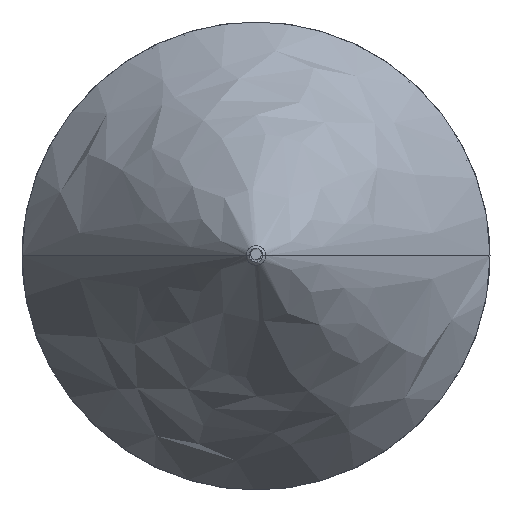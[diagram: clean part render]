
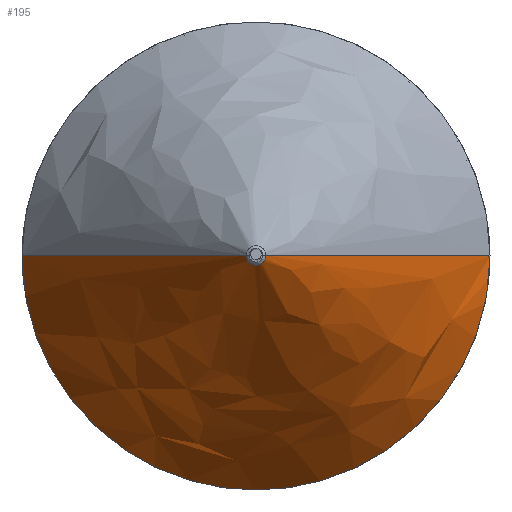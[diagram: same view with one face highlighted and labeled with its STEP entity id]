
A CAD part, top view. The second image highlights one B-rep face of the part: STEP entity #195.
In plain terms, the highlighted free-form (B-spline) face has degree [2, 1] with [5, 2] control points.
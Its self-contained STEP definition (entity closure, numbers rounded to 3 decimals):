
#195=ADVANCED_FACE('',(#223),#904,.T.);
#223=FACE_OUTER_BOUND('',#252,.T.);
#252=EDGE_LOOP('',(#340,#341,#342,#343));
#340=ORIENTED_EDGE('',*,*,#770,.T.);
#341=ORIENTED_EDGE('',*,*,#768,.F.);
#342=ORIENTED_EDGE('',*,*,#771,.T.);
#343=ORIENTED_EDGE('',*,*,#766,.F.);
#436=B_SPLINE_CURVE_WITH_KNOTS('',1,(#1736,#1737),.UNSPECIFIED.,.F.,.F.,
(2,2),(8.523,296.967),.UNSPECIFIED.);
#437=B_SPLINE_CURVE_WITH_KNOTS('',1,(#1738,#1739),.UNSPECIFIED.,.F.,.F.,
(2,2),(8.523,296.967),.UNSPECIFIED.);
#439=B_SPLINE_CURVE_WITH_KNOTS('',1,(#1747,#1748),.UNSPECIFIED.,.F.,.F.,
(2,2),(-296.967,-8.523),.UNSPECIFIED.);
#440=B_SPLINE_CURVE_WITH_KNOTS('',1,(#1749,#1750),.UNSPECIFIED.,.F.,.F.,
(2,2),(-296.967,-8.523),.UNSPECIFIED.);
#442=B_SPLINE_CURVE_WITH_KNOTS('',1,(#1763,#1764),.UNSPECIFIED.,.F.,.F.,
(2,2),(524.66,1049.319),.UNSPECIFIED.);
#443=B_SPLINE_CURVE_WITH_KNOTS('',1,(#1765,#1766),.UNSPECIFIED.,.F.,.F.,
(2,2),(-296.967,-8.523),.UNSPECIFIED.);
#444=B_SPLINE_CURVE_WITH_KNOTS('',1,(#1772,#1773),.UNSPECIFIED.,.F.,.F.,
(2,2),(-1049.319,-524.66),.UNSPECIFIED.);
#445=B_SPLINE_CURVE_WITH_KNOTS('',1,(#1774,#1775),.UNSPECIFIED.,.F.,.F.,
(2,2),(8.523,296.967),.UNSPECIFIED.);
#533=PCURVE('',#903,#628);
#535=PCURVE('',#903,#630);
#537=PCURVE('',#904,#632);
#538=PCURVE('',#904,#633);
#539=PCURVE('',#904,#634);
#540=PCURVE('',#904,#635);
#628=DEFINITIONAL_REPRESENTATION('',(#437),#1839);
#630=DEFINITIONAL_REPRESENTATION('',(#440),#1839);
#632=DEFINITIONAL_REPRESENTATION('',(#442),#1839);
#633=DEFINITIONAL_REPRESENTATION('',(#443),#1839);
#634=DEFINITIONAL_REPRESENTATION('',(#444),#1839);
#635=DEFINITIONAL_REPRESENTATION('',(#445),#1839);
#699=SURFACE_CURVE('',#436,(#533,#540),.PCURVE_S1.);
#701=SURFACE_CURVE('',#439,(#535,#538),.PCURVE_S1.);
#703=SURFACE_CURVE('',#830,(#537),.PCURVE_S1.);
#704=SURFACE_CURVE('',#831,(#539),.PCURVE_S1.);
#766=EDGE_CURVE('',#878,#879,#699,.T.);
#768=EDGE_CURVE('',#876,#877,#701,.T.);
#770=EDGE_CURVE('',#878,#877,#703,.T.);
#771=EDGE_CURVE('',#876,#879,#704,.T.);
#830=(
BOUNDED_CURVE()
B_SPLINE_CURVE(2,(#1758,#1759,#1760,#1761,#1762),.UNSPECIFIED.,.F.,.F.)
B_SPLINE_CURVE_WITH_KNOTS((3,2,3),(524.66,786.989,1049.319),
 .UNSPECIFIED.)
CURVE()
GEOMETRIC_REPRESENTATION_ITEM()
RATIONAL_B_SPLINE_CURVE((1.,0.707,1.,0.707,1.))
REPRESENTATION_ITEM('')
);
#831=(
BOUNDED_CURVE()
B_SPLINE_CURVE(2,(#1767,#1768,#1769,#1770,#1771),.UNSPECIFIED.,.F.,.F.)
B_SPLINE_CURVE_WITH_KNOTS((3,2,3),(-1049.319,-786.989,
-524.66),.UNSPECIFIED.)
CURVE()
GEOMETRIC_REPRESENTATION_ITEM()
RATIONAL_B_SPLINE_CURVE((1.,0.707,1.,0.707,1.))
REPRESENTATION_ITEM('')
);
#876=VERTEX_POINT('',#1732);
#877=VERTEX_POINT('',#1733);
#878=VERTEX_POINT('',#1734);
#879=VERTEX_POINT('',#1735);
#903=(
BOUNDED_SURFACE()
B_SPLINE_SURFACE(2,1,((#1712,#1713),(#1714,#1715),(#1716,#1717),(#1718,
#1719),(#1720,#1721)),.UNSPECIFIED.,.F.,.F.,.F.)
B_SPLINE_SURFACE_WITH_KNOTS((3,2,3),(2,2),(0.,262.33,524.66),
(8.523,296.967),.UNSPECIFIED.)
GEOMETRIC_REPRESENTATION_ITEM()
RATIONAL_B_SPLINE_SURFACE(((1.,1.),(0.707,0.707),
(1.,1.),(0.707,0.707),(1.,1.)))
REPRESENTATION_ITEM('')
SURFACE()
);
#904=(
BOUNDED_SURFACE()
B_SPLINE_SURFACE(2,1,((#1722,#1723),(#1724,#1725),(#1726,#1727),(#1728,
#1729),(#1730,#1731)),.UNSPECIFIED.,.F.,.F.,.F.)
B_SPLINE_SURFACE_WITH_KNOTS((3,2,3),(2,2),(524.66,786.989,
1049.319),(8.523,296.967),.UNSPECIFIED.)
GEOMETRIC_REPRESENTATION_ITEM()
RATIONAL_B_SPLINE_SURFACE(((1.,1.),(0.707,0.707),
(1.,1.),(0.707,0.707),(1.,1.)))
REPRESENTATION_ITEM('')
SURFACE()
);
#1712=CARTESIAN_POINT('',(-6.986,-0.175,241.526));
#1713=CARTESIAN_POINT('',(-166.986,-0.175,1.526));
#1714=CARTESIAN_POINT('',(-6.986,6.829,241.526));
#1715=CARTESIAN_POINT('',(-166.986,166.829,1.526));
#1716=CARTESIAN_POINT('',(0.019,6.829,241.526));
#1717=CARTESIAN_POINT('',(0.019,166.829,1.526));
#1718=CARTESIAN_POINT('',(7.023,6.829,241.526));
#1719=CARTESIAN_POINT('',(167.023,166.829,1.526));
#1720=CARTESIAN_POINT('',(7.023,-0.175,241.526));
#1721=CARTESIAN_POINT('',(167.023,-0.175,1.526));
#1722=CARTESIAN_POINT('',(7.023,-0.175,241.526));
#1723=CARTESIAN_POINT('',(167.023,-0.175,1.526));
#1724=CARTESIAN_POINT('',(7.023,-7.18,241.526));
#1725=CARTESIAN_POINT('',(167.023,-167.18,1.526));
#1726=CARTESIAN_POINT('',(0.019,-7.18,241.526));
#1727=CARTESIAN_POINT('',(0.019,-167.18,1.526));
#1728=CARTESIAN_POINT('',(-6.986,-7.18,241.526));
#1729=CARTESIAN_POINT('',(-166.986,-167.18,1.526));
#1730=CARTESIAN_POINT('',(-6.986,-0.175,241.526));
#1731=CARTESIAN_POINT('',(-166.986,-0.175,1.526));
#1732=CARTESIAN_POINT('',(-166.986,-0.175,1.526));
#1733=CARTESIAN_POINT('',(-6.986,-0.175,241.526));
#1734=CARTESIAN_POINT('',(7.023,-0.175,241.526));
#1735=CARTESIAN_POINT('',(167.023,-0.175,1.526));
#1736=CARTESIAN_POINT('',(7.023,-0.175,241.526));
#1737=CARTESIAN_POINT('',(167.023,-0.175,1.526));
#1738=CARTESIAN_POINT('',(524.66,8.523));
#1739=CARTESIAN_POINT('',(524.66,296.967));
#1747=CARTESIAN_POINT('',(-166.986,-0.175,1.526));
#1748=CARTESIAN_POINT('',(-6.986,-0.175,241.526));
#1749=CARTESIAN_POINT('',(0.,296.967));
#1750=CARTESIAN_POINT('',(0.,8.523));
#1758=CARTESIAN_POINT('',(7.023,-0.175,241.526));
#1759=CARTESIAN_POINT('',(7.023,-7.18,241.526));
#1760=CARTESIAN_POINT('',(0.019,-7.18,241.526));
#1761=CARTESIAN_POINT('',(-6.986,-7.18,241.526));
#1762=CARTESIAN_POINT('',(-6.986,-0.175,241.526));
#1763=CARTESIAN_POINT('',(524.66,8.523));
#1764=CARTESIAN_POINT('',(1049.319,8.523));
#1765=CARTESIAN_POINT('',(1049.319,296.967));
#1766=CARTESIAN_POINT('',(1049.319,8.523));
#1767=CARTESIAN_POINT('',(-166.986,-0.175,1.526));
#1768=CARTESIAN_POINT('',(-166.986,-167.18,1.526));
#1769=CARTESIAN_POINT('',(0.019,-167.18,1.526));
#1770=CARTESIAN_POINT('',(167.023,-167.18,1.526));
#1771=CARTESIAN_POINT('',(167.023,-0.175,1.526));
#1772=CARTESIAN_POINT('',(1049.319,296.967));
#1773=CARTESIAN_POINT('',(524.66,296.967));
#1774=CARTESIAN_POINT('',(524.66,8.523));
#1775=CARTESIAN_POINT('',(524.66,296.967));
#1839=(
GEOMETRIC_REPRESENTATION_CONTEXT(2)
PARAMETRIC_REPRESENTATION_CONTEXT()
REPRESENTATION_CONTEXT('pspace','')
);
